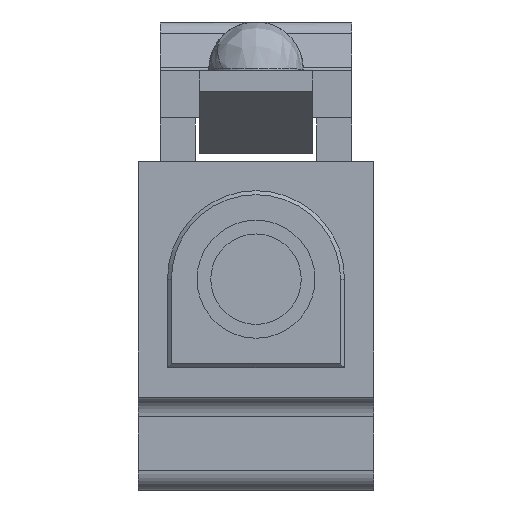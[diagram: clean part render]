
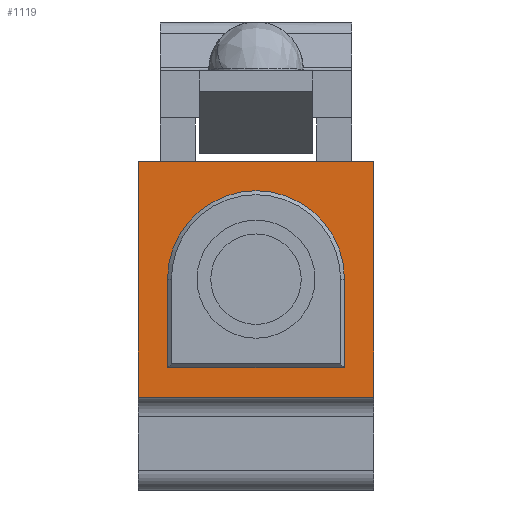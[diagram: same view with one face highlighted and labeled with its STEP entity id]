
A CAD part, front view. The second image highlights one B-rep face of the part: STEP entity #1119.
In plain terms, the highlighted planar face has unit normal (0, -1, 0).
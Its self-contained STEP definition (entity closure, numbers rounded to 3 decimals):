
#29=DIRECTION('',(0.,0.,-1.));
#30=VECTOR('',#29,7.62);
#31=CARTESIAN_POINT('',(-3.81,0.,3.81));
#32=LINE('',#31,#30);
#33=DIRECTION('',(-1.,0.,0.));
#34=VECTOR('',#33,7.62);
#35=CARTESIAN_POINT('',(3.81,0.,3.81));
#36=LINE('',#35,#34);
#37=CARTESIAN_POINT('',(0.,0.,0.));
#38=DIRECTION('',(0.,1.,0.));
#39=DIRECTION('',(-1.,0.,0.));
#40=AXIS2_PLACEMENT_3D('',#37,#38,#39);
#42=DIRECTION('',(0.,0.,1.));
#43=VECTOR('',#42,2.858);
#44=CARTESIAN_POINT('',(-2.858,0.,-2.858));
#45=LINE('',#44,#43);
#46=DIRECTION('',(-1.,0.,0.));
#47=VECTOR('',#46,5.715);
#48=CARTESIAN_POINT('',(2.858,0.,-2.858));
#49=LINE('',#48,#47);
#50=DIRECTION('',(0.,0.,-1.));
#51=VECTOR('',#50,2.858);
#52=CARTESIAN_POINT('',(2.858,0.,0.));
#53=LINE('',#52,#51);
#68=DIRECTION('',(0.,0.,-1.));
#69=VECTOR('',#68,7.62);
#70=CARTESIAN_POINT('',(3.81,0.,3.81));
#71=LINE('',#70,#69);
#194=DIRECTION('',(-1.,0.,0.));
#195=VECTOR('',#194,7.62);
#196=CARTESIAN_POINT('',(3.81,0.,-3.81));
#197=LINE('',#196,#195);
#814=CARTESIAN_POINT('',(3.81,0.,-3.81));
#816=VERTEX_POINT('',#814);
#817=CARTESIAN_POINT('',(-3.81,0.,-3.81));
#818=VERTEX_POINT('',#817);
#829=CARTESIAN_POINT('',(3.81,0.,3.81));
#830=VERTEX_POINT('',#829);
#841=CARTESIAN_POINT('',(-3.81,0.,3.81));
#842=VERTEX_POINT('',#841);
#893=CARTESIAN_POINT('',(-2.858,0.,0.));
#894=CARTESIAN_POINT('',(2.858,0.,0.));
#895=VERTEX_POINT('',#893);
#896=VERTEX_POINT('',#894);
#897=CARTESIAN_POINT('',(2.858,0.,-2.858));
#898=VERTEX_POINT('',#897);
#899=CARTESIAN_POINT('',(-2.858,0.,-2.858));
#900=VERTEX_POINT('',#899);
#1098=CARTESIAN_POINT('',(-3.81,0.,-3.81));
#1099=DIRECTION('',(0.,-1.,0.));
#1100=DIRECTION('',(-1.,0.,0.));
#1101=AXIS2_PLACEMENT_3D('',#1098,#1099,#1100);
#1102=PLANE('',#1101);
#1104=ORIENTED_EDGE('',*,*,#1103,.T.);
#1106=ORIENTED_EDGE('',*,*,#1105,.T.);
#1108=ORIENTED_EDGE('',*,*,#1107,.F.);
#1110=ORIENTED_EDGE('',*,*,#1109,.F.);
#1111=EDGE_LOOP('',(#1104,#1106,#1108,#1110));
#1112=FACE_OUTER_BOUND('',#1111,.F.);
#1113=ORIENTED_EDGE('',*,*,#1090,.F.);
#1114=ORIENTED_EDGE('',*,*,#1045,.F.);
#1115=ORIENTED_EDGE('',*,*,#1061,.F.);
#1116=ORIENTED_EDGE('',*,*,#1076,.F.);
#1117=EDGE_LOOP('',(#1113,#1114,#1115,#1116));
#1118=FACE_BOUND('',#1117,.F.);
#1119=ADVANCED_FACE('',(#1112,#1118),#1102,.T.);
#41=CIRCLE('',#40,2.858);
#1045=EDGE_CURVE('',#900,#895,#45,.T.);
#1061=EDGE_CURVE('',#898,#900,#49,.T.);
#1076=EDGE_CURVE('',#896,#898,#53,.T.);
#1090=EDGE_CURVE('',#895,#896,#41,.T.);
#1103=EDGE_CURVE('',#830,#816,#71,.T.);
#1105=EDGE_CURVE('',#816,#818,#197,.T.);
#1107=EDGE_CURVE('',#842,#818,#32,.T.);
#1109=EDGE_CURVE('',#830,#842,#36,.T.);
